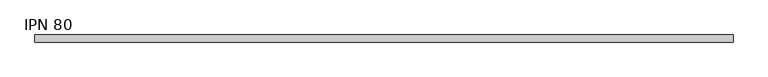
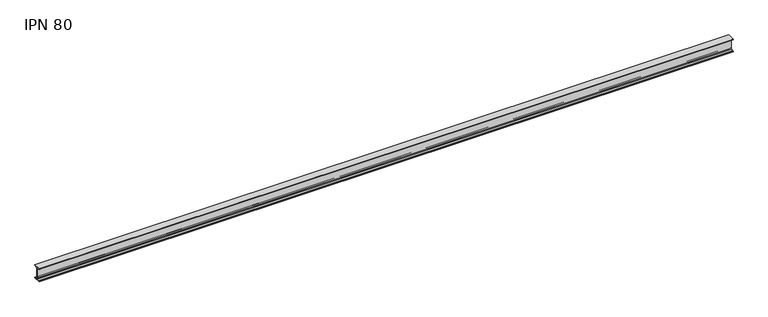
"""IFC4 building model written with IfcOpenShell, lengths in millimetres: beam geometry, IPN - Secciones en I con alas cónicas : IPN 80."""

from ifc_helpers import new_model, si_unit, point, frame, frame_2d, origin, place, context, project, spatial, polyline, circle_curve, trimmed, segment, composite_curve, outline, extrude, source, transform, mapped, element, save


def ipn_80_f29cdf03(model_context):
    return source(origin(), model_context, "Body", "SweptSolid", [
        extrude(outline(composite_curve([segment(polyline([(21.0, 40.0), (21.0, 37.5704306)]), True, "CONTINUOUS"), segment(trimmed(circle_curve(frame_2d((18.7, 37.5704306)), 2.3), [point((21.0, 37.5704306))], [point((19.01889, 35.2926446))], False, "CARTESIAN"), True, "CONTINUOUS"), segment(polyline([(19.01889, 35.2926446), (5.3092734, 33.3732983)]), True, "CONTINUOUS"), segment(trimmed(circle_curve(frame_2d((5.85, 29.5109655)), 3.9), [point((5.3092734, 33.3732983))], [point((1.95, 29.5109655))], True, "CARTESIAN"), True, "CONTINUOUS"), segment(polyline([(1.95, 29.5109655), (1.95, -29.5109655)]), True, "CONTINUOUS"), segment(trimmed(circle_curve(frame_2d((5.85, -29.5109655)), 3.9), [point((1.95, -29.5109655))], [point((5.3092734, -33.3732983))], True, "CARTESIAN"), True, "CONTINUOUS"), segment(polyline([(5.3092734, -33.3732983), (19.01889, -35.2926446)]), True, "CONTINUOUS"), segment(trimmed(circle_curve(frame_2d((18.7, -37.5704306)), 2.3), [point((19.01889, -35.2926446))], [point((21.0, -37.5704306))], False, "CARTESIAN"), True, "CONTINUOUS"), segment(polyline([(21.0, -37.5704306), (21.0, -40.0), (-21.0, -40.0), (-21.0, -37.5704306)]), True, "CONTINUOUS"), segment(trimmed(circle_curve(frame_2d((-18.7, -37.5704306)), 2.3), [point((-21.0, -37.5704306))], [point((-19.01889, -35.2926446))], False, "CARTESIAN"), True, "CONTINUOUS"), segment(polyline([(-19.01889, -35.2926446), (-5.3092734, -33.3732983)]), True, "CONTINUOUS"), segment(trimmed(circle_curve(frame_2d((-5.85, -29.5109655)), 3.9), [point((-5.3092734, -33.3732983))], [point((-1.95, -29.5109655))], True, "CARTESIAN"), True, "CONTINUOUS"), segment(polyline([(-1.95, -29.5109655), (-1.95, 29.5109655)]), True, "CONTINUOUS"), segment(trimmed(circle_curve(frame_2d((-5.85, 29.5109655)), 3.9), [point((-1.95, 29.5109655))], [point((-5.3092734, 33.3732983))], True, "CARTESIAN"), True, "CONTINUOUS"), segment(polyline([(-5.3092734, 33.3732983), (-19.01889, 35.2926446)]), True, "CONTINUOUS"), segment(trimmed(circle_curve(frame_2d((-18.7, 37.5704306)), 2.3), [point((-19.01889, 35.2926446))], [point((-21.0, 37.5704306))], False, "CARTESIAN"), True, "CONTINUOUS"), segment(polyline([(-21.0, 37.5704306), (-21.0, 40.0), (21.0, 40.0)]), True, "CONTINUOUS")], self_intersect=False)), frame((-2055.85, 0.0, 0.0), z_axis=(1.0, 0.0, 0.0), x_axis=(0.0, 1.0, 0.0)), (0.0, 0.0, 1.0), 4084.85),
    ])


if __name__ == "__main__":
    model = new_model("IFC4")
    model_context = context("Model", 3, world=origin())
    ifc_project = project(units=[si_unit("LENGTHUNIT", "METRE", prefix="MILLI")], contexts=[model_context])
    site = spatial("IfcSite", under=ifc_project)
    building = spatial("IfcBuilding", under=site)
    placement = place(None, origin())
    ipn_80_shape = ipn_80_f29cdf03(model_context)
    element("IfcBeam", 1, ObjectType="IPN - Secciones en I con alas cónicas : IPN 80", at=placement, inside=building, context=model_context, shape_type="MappedRepresentation", body=[
        mapped(ipn_80_shape, transform((0.0, 0.0, 0.0), x_axis=(1.0, 0.0, 0.0), y_axis=(0.0, 1.0, 0.0), z_axis=(0.0, 0.0, 1.0))),
    ])
    save(model, "model.ifc")
